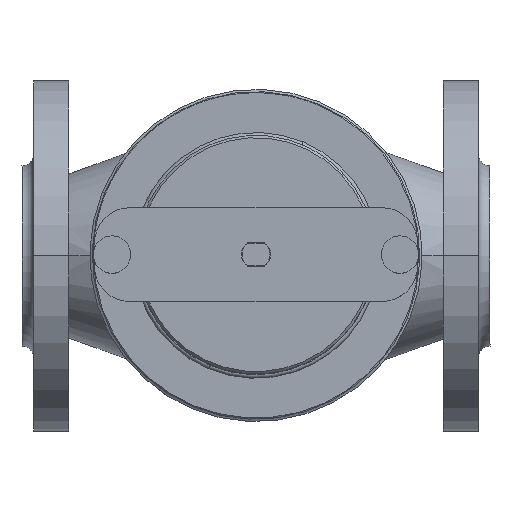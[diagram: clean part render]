
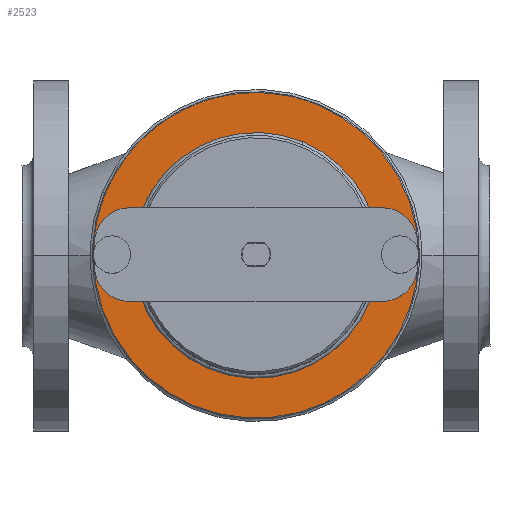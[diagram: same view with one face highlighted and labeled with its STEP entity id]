
A CAD part, top view. The second image highlights one B-rep face of the part: STEP entity #2523.
In plain terms, the highlighted planar face has unit normal (0, 0, 1).
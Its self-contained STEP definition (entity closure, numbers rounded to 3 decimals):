
#1 = CARTESIAN_POINT ( 'NONE',  ( -118.833, 8.01, 125.12 ) ) ;
#42 = DIRECTION ( 'NONE',  ( 0., 0., -1. ) ) ;
#160 = EDGE_CURVE ( 'NONE', #2115, #9882, #5367, .T. ) ;
#345 = VERTEX_POINT ( 'NONE', #12785 ) ;
#402 = CARTESIAN_POINT ( 'NONE',  ( -57.333, 0.01, 125.12 ) ) ;
#501 = DIRECTION ( 'NONE',  ( 0., 0., -1. ) ) ;
#897 = ORIENTED_EDGE ( 'NONE', *, *, #1829, .T. ) ;
#1120 = VERTEX_POINT ( 'NONE', #18990 ) ;
#1146 = EDGE_CURVE ( 'NONE', #1120, #16835, #12233, .T. ) ;
#1661 = DIRECTION ( 'NONE',  ( 0., -1., 0. ) ) ;
#1829 = EDGE_CURVE ( 'NONE', #9882, #4909, #9733, .T. ) ;
#1919 = CIRCLE ( 'NONE', #6707, 69.5 ) ;
#2115 = VERTEX_POINT ( 'NONE', #20264 ) ;
#2258 = CARTESIAN_POINT ( 'NONE',  ( 4.167, 0.01, 125.12 ) ) ;
#2382 = CARTESIAN_POINT ( 'NONE',  ( -57.333, 0.01, 125.12 ) ) ;
#2523 = ADVANCED_FACE ( 'NONE', ( #15482, #11956 ), #18506, .F. ) ;
#2584 = CARTESIAN_POINT ( 'NONE',  ( 4.167, 8.01, 125.12 ) ) ;
#2974 = AXIS2_PLACEMENT_3D ( 'NONE', #2382, #12245, #7195 ) ;
#3003 = CARTESIAN_POINT ( 'NONE',  ( -77.424, -48.494, 125.12 ) ) ;
#3320 = DIRECTION ( 'NONE',  ( 0., 0., -1. ) ) ;
#3620 = CIRCLE ( 'NONE', #15605, 8. ) ;
#3803 = DIRECTION ( 'NONE',  ( 0., 0., -1. ) ) ;
#3831 = EDGE_CURVE ( 'NONE', #1120, #16261, #9747, .T. ) ;
#3864 = DIRECTION ( 'NONE',  ( 0., 0., -1. ) ) ;
#3901 = CARTESIAN_POINT ( 'NONE',  ( -57.333, 0.01, 125.12 ) ) ;
#4153 = DIRECTION ( 'NONE',  ( 0., 0., -1. ) ) ;
#4556 = DIRECTION ( 'NONE',  ( 1., 0., 0. ) ) ;
#4652 = AXIS2_PLACEMENT_3D ( 'NONE', #13414, #19963, #15130 ) ;
#4898 = CARTESIAN_POINT ( 'NONE',  ( -118.833, 0.01, 125.12 ) ) ;
#4909 = VERTEX_POINT ( 'NONE', #2584 ) ;
#5253 = VERTEX_POINT ( 'NONE', #3003 ) ;
#5367 = CIRCLE ( 'NONE', #18414, 8. ) ;
#5631 = AXIS2_PLACEMENT_3D ( 'NONE', #8472, #3320, #15116 ) ;
#5739 = CIRCLE ( 'NONE', #13985, 52.5 ) ;
#5776 = EDGE_CURVE ( 'NONE', #16835, #2115, #19389, .T. ) ;
#5972 = VERTEX_POINT ( 'NONE', #20162 ) ;
#6398 = CARTESIAN_POINT ( 'NONE',  ( -30.736, 64.22, 125.12 ) ) ;
#6400 = ORIENTED_EDGE ( 'NONE', *, *, #18092, .T. ) ;
#6707 = AXIS2_PLACEMENT_3D ( 'NONE', #18212, #13378, #13155 ) ;
#7170 = CARTESIAN_POINT ( 'NONE',  ( -57.333, 0.01, 125.12 ) ) ;
#7186 = EDGE_CURVE ( 'NONE', #345, #1120, #10499, .T. ) ;
#7195 = DIRECTION ( 'NONE',  ( -0.383, -0.924, 0. ) ) ;
#7239 = EDGE_LOOP ( 'NONE', ( #13953, #7296, #20391, #13526, #14849, #20589, #10258, #897, #13249, #15534 ) ) ;
#7296 = ORIENTED_EDGE ( 'NONE', *, *, #3831, .T. ) ;
#7536 = CARTESIAN_POINT ( 'NONE',  ( 4.167, -7.99, 125.12 ) ) ;
#8094 = DIRECTION ( 'NONE',  ( 0., 0., -1. ) ) ;
#8238 = EDGE_CURVE ( 'NONE', #16261, #19541, #3620, .T. ) ;
#8472 = CARTESIAN_POINT ( 'NONE',  ( 4.167, 0.01, 125.12 ) ) ;
#8788 = CIRCLE ( 'NONE', #4652, 8. ) ;
#8900 = DIRECTION ( 'NONE',  ( 0., -1., 0. ) ) ;
#9146 = AXIS2_PLACEMENT_3D ( 'NONE', #2258, #3864, #8900 ) ;
#9157 = EDGE_CURVE ( 'NONE', #2115, #345, #1919, .T. ) ;
#9183 = ORIENTED_EDGE ( 'NONE', *, *, #17811, .T. ) ;
#9733 = CIRCLE ( 'NONE', #5631, 8. ) ;
#9747 = CIRCLE ( 'NONE', #14202, 8. ) ;
#9882 = VERTEX_POINT ( 'NONE', #7536 ) ;
#10258 = ORIENTED_EDGE ( 'NONE', *, *, #160, .T. ) ;
#10499 = CIRCLE ( 'NONE', #12542, 69.5 ) ;
#10558 = AXIS2_PLACEMENT_3D ( 'NONE', #12719, #8094, #4556 ) ;
#10813 = AXIS2_PLACEMENT_3D ( 'NONE', #7170, #12217, #20263 ) ;
#11296 = EDGE_CURVE ( 'NONE', #19541, #1120, #8788, .T. ) ;
#11351 = EDGE_LOOP ( 'NONE', ( #6400, #9183 ) ) ;
#11445 = DIRECTION ( 'NONE',  ( 0., 0., -1. ) ) ;
#11956 = FACE_OUTER_BOUND ( 'NONE', #7239, .T. ) ;
#12217 = DIRECTION ( 'NONE',  ( 0., 0., -1. ) ) ;
#12233 = CIRCLE ( 'NONE', #2974, 69.5 ) ;
#12245 = DIRECTION ( 'NONE',  ( 0., 0., -1. ) ) ;
#12542 = AXIS2_PLACEMENT_3D ( 'NONE', #402, #501, #15305 ) ;
#12719 = CARTESIAN_POINT ( 'NONE',  ( -57.333, 0.01, 125.12 ) ) ;
#12785 = CARTESIAN_POINT ( 'NONE',  ( -83.929, -64.2, 125.12 ) ) ;
#12795 = CARTESIAN_POINT ( 'NONE',  ( -118.833, -7.99, 125.12 ) ) ;
#13155 = DIRECTION ( 'NONE',  ( -0.383, -0.924, 0. ) ) ;
#13249 = ORIENTED_EDGE ( 'NONE', *, *, #16662, .T. ) ;
#13378 = DIRECTION ( 'NONE',  ( 0., 0., -1. ) ) ;
#13414 = CARTESIAN_POINT ( 'NONE',  ( -118.833, 0.01, 125.12 ) ) ;
#13526 = ORIENTED_EDGE ( 'NONE', *, *, #11296, .T. ) ;
#13953 = ORIENTED_EDGE ( 'NONE', *, *, #1146, .F. ) ;
#13985 = AXIS2_PLACEMENT_3D ( 'NONE', #18854, #4153, #18955 ) ;
#14202 = AXIS2_PLACEMENT_3D ( 'NONE', #4898, #11445, #18000 ) ;
#14849 = ORIENTED_EDGE ( 'NONE', *, *, #7186, .F. ) ;
#15116 = DIRECTION ( 'NONE',  ( 0., -1., 0. ) ) ;
#15130 = DIRECTION ( 'NONE',  ( 0., -1., 0. ) ) ;
#15305 = DIRECTION ( 'NONE',  ( -0.383, -0.924, 0. ) ) ;
#15482 = FACE_BOUND ( 'NONE', #11351, .T. ) ;
#15534 = ORIENTED_EDGE ( 'NONE', *, *, #5776, .F. ) ;
#15605 = AXIS2_PLACEMENT_3D ( 'NONE', #16354, #42, #1661 ) ;
#15653 = CIRCLE ( 'NONE', #9146, 8. ) ;
#15909 = AXIS2_PLACEMENT_3D ( 'NONE', #3901, #3803, #16893 ) ;
#16115 = DIRECTION ( 'NONE',  ( 0., -1., 0. ) ) ;
#16261 = VERTEX_POINT ( 'NONE', #1 ) ;
#16354 = CARTESIAN_POINT ( 'NONE',  ( -118.833, 0.01, 125.12 ) ) ;
#16662 = EDGE_CURVE ( 'NONE', #4909, #2115, #15653, .T. ) ;
#16835 = VERTEX_POINT ( 'NONE', #6398 ) ;
#16893 = DIRECTION ( 'NONE',  ( -1., 0., 0. ) ) ;
#17811 = EDGE_CURVE ( 'NONE', #5253, #5972, #5739, .T. ) ;
#18000 = DIRECTION ( 'NONE',  ( 0., -1., 0. ) ) ;
#18088 = CIRCLE ( 'NONE', #10558, 52.5 ) ;
#18092 = EDGE_CURVE ( 'NONE', #5972, #5253, #18088, .T. ) ;
#18212 = CARTESIAN_POINT ( 'NONE',  ( -57.333, 0.01, 125.12 ) ) ;
#18414 = AXIS2_PLACEMENT_3D ( 'NONE', #21158, #20944, #16115 ) ;
#18506 = PLANE ( 'NONE',  #15909 ) ;
#18854 = CARTESIAN_POINT ( 'NONE',  ( -57.333, 0.01, 125.12 ) ) ;
#18955 = DIRECTION ( 'NONE',  ( 1., 0., 0. ) ) ;
#18990 = CARTESIAN_POINT ( 'NONE',  ( -126.833, 0.01, 125.12 ) ) ;
#19389 = CIRCLE ( 'NONE', #10813, 69.5 ) ;
#19541 = VERTEX_POINT ( 'NONE', #12795 ) ;
#19963 = DIRECTION ( 'NONE',  ( 0., 0., -1. ) ) ;
#20162 = CARTESIAN_POINT ( 'NONE',  ( -37.242, 48.514, 125.12 ) ) ;
#20263 = DIRECTION ( 'NONE',  ( -0.383, -0.924, 0. ) ) ;
#20264 = CARTESIAN_POINT ( 'NONE',  ( 12.167, 0.01, 125.12 ) ) ;
#20391 = ORIENTED_EDGE ( 'NONE', *, *, #8238, .T. ) ;
#20589 = ORIENTED_EDGE ( 'NONE', *, *, #9157, .F. ) ;
#20944 = DIRECTION ( 'NONE',  ( 0., 0., -1. ) ) ;
#21158 = CARTESIAN_POINT ( 'NONE',  ( 4.167, 0.01, 125.12 ) ) ;
